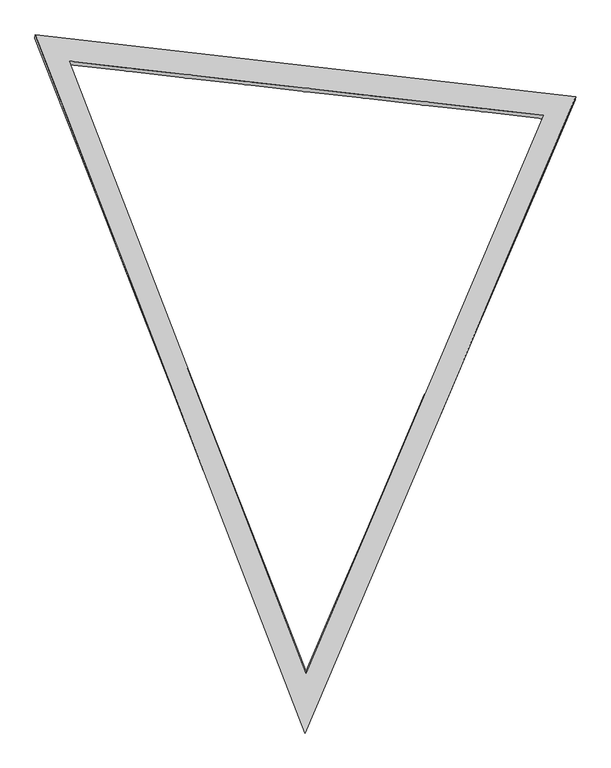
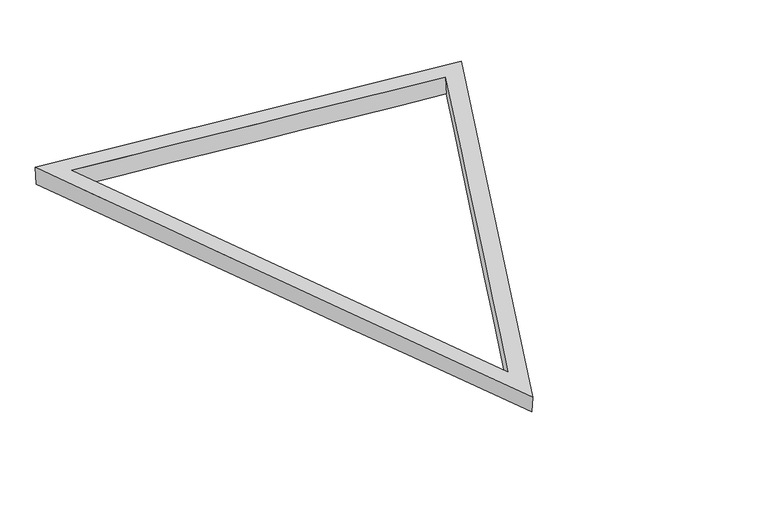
"""IFC4 building model written with IfcOpenShell, lengths in millimetres: plate geometry."""

from ifc_helpers import new_model, si_unit, frame, origin, place, context, project, spatial, source, transform, mapped, element, save
from ifc_brep_helpers import plane_surface, spline_surface, advanced_brep


def plate_f72295dc(model_context):
    return source(origin(), model_context, "Body", "AdvancedBrep", [
        advanced_brep(
        [(3959.711714, 7113.5221309, 0.0), (3961.8557183, 7143.8132921, 200.9428196), (6103.2419784, 1604.6169392, 201.7315635), (6104.7186526, 1624.368043, 0.0), (8253.6253667, 6654.7661914, 201.2931456), (8249.7255912, 6627.1064144, 0.0), (6096.0, 1088.3904079, 0.0), (8544.1847211, 6798.2216554, 0.0), (8547.3133922, 6825.8154237, 201.2934062), (6094.1520112, 1064.5957353, 201.7935541), (3647.8152789, 7353.3879367, 0.0), (3651.2545707, 7383.7212685, 200.8937536)],
        [
            (0, 1),
            (1, 2),
            (2, 3),
            (3, 0),
            (2, 4),
            (4, 5),
            (5, 3),
            (0, 5),
            (4, 1),
            (6, 7),
            (7, 8),
            (8, 9),
            (9, 6),
            (7, 10),
            (10, 11),
            (11, 8),
            (9, 11),
            (10, 6),
        ],
        [
            spline_surface(1, 1, [[(3959.711714, 7113.5221309, 0.0), (6104.7186526, 1624.368043, 0.0)], [(3961.8557183, 7143.8132921, 200.9428196), (6103.2419784, 1604.6169392, 201.7315635)]], [2, 2], [2, 2], [0.0, 1.0], [0.0, 1.0]),
            spline_surface(1, 1, [[(6104.7186526, 1624.368043, 0.0), (8249.7255912, 6627.1064144, 0.0)], [(6103.2419784, 1604.6169392, 201.7315635), (8253.6253667, 6654.7661914, 201.2931456)]], [2, 2], [2, 2], [0.0, 1.0], [0.0, 1.0]),
            spline_surface(1, 1, [[(8249.7255912, 6627.1064144, 0.0), (3959.711714, 7113.5221309, 0.0)], [(8253.6253667, 6654.7661914, 201.2931456), (3961.8557183, 7143.8132921, 200.9428196)]], [2, 2], [2, 2], [0.0, 1.0], [0.0, 1.0]),
            spline_surface(1, 1, [[(6096.0, 1088.3904079, 0.0), (6094.1520112, 1064.5957353, 201.7935541)], [(8544.1847211, 6798.2216554, 0.0), (8547.3133922, 6825.8154237, 201.2934062)]], [2, 2], [2, 2], [0.0, 1.0], [0.0, 1.0]),
            spline_surface(1, 1, [[(8544.1847211, 6798.2216554, 0.0), (8547.3133922, 6825.8154237, 201.2934062)], [(3647.8152789, 7353.3879367, 0.0), (3651.2545707, 7383.7212685, 200.8937536)]], [2, 2], [2, 2], [0.0, 1.0], [0.0, 1.0]),
            spline_surface(1, 1, [[(3647.8152789, 7353.3879367, 0.0), (3651.2545707, 7383.7212685, 200.8937536)], [(6096.0, 1088.3904079, 0.0), (6094.1520112, 1064.5957353, 201.7935541)]], [2, 2], [2, 2], [0.0, 1.0], [0.0, 1.0]),
            plane_surface(frame((6097.5733247, 5091.3774758, 201.3269047), z_axis=(-6.841551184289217e-05, 0.000115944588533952, 0.9999999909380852), x_axis=(0.3605812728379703, -0.932727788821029, 0.00013281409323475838))),
            plane_surface(frame((6096.0, 5080.0, 0.0), z_axis=(0.0, 0.0, -1.0), x_axis=(-0.3639692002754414, 0.9314109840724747, 0.0))),
        ],
        [
            (0, [[1, 2, 3, 4]]),
            (1, [[-3, 5, 6, 7]]),
            (2, [[-1, 8, -6, 9]]),
            (3, [[10, 11, 12, 13]]),
            (4, [[-11, 14, 15, 16]]),
            (5, [[-13, 17, -15, 18]]),
            (6, [[-12, -16, -17], [-2, -9, -5]]),
            (7, [[-10, -18, -14], [-4, -7, -8]]),
        ],
    ),
    ])


if __name__ == "__main__":
    model = new_model("IFC4")
    model_context = context("Model", 3, world=origin())
    ifc_project = project(units=[si_unit("LENGTHUNIT", "METRE", prefix="MILLI")], contexts=[model_context])
    site = spatial("IfcSite", under=ifc_project)
    building = spatial("IfcBuilding", under=site)
    placement = place(None, origin())
    plate_shape = plate_f72295dc(model_context)
    element("IfcPlate", 1, ObjectType="tn_cpanel_patbase_triangle_flat_seamless_frame_02_cylinder : tn_triangle_seamless_frame_t8\"xh8\"", at=placement, inside=building, context=model_context, shape_type="MappedRepresentation", body=[
        mapped(plate_shape, transform((0.0, 0.0, 0.0), x_axis=(1.0, 0.0, 0.0), y_axis=(0.0, 1.0, 0.0), z_axis=(0.0, 0.0, 1.0))),
    ])
    save(model, "model.ifc")
